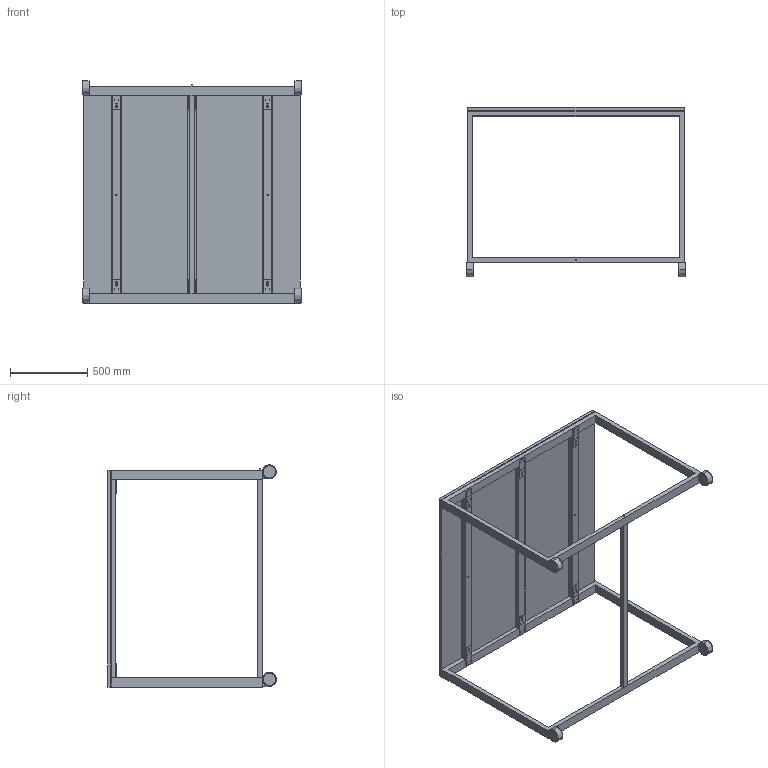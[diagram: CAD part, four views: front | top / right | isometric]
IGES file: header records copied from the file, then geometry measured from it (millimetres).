
Start section: SolidWorks IGES file using analytic representation for surfaces
Global section: file name: C:\Users\hcaixa\Documents\Gabinete Tecnico\72_produtos cliente\Timsteel\Mesas\Mesas Escritorio Operativas\Sistema Level Timsteel\AREIA-STUDIO FURNITURE CONCEPT\IGS\MESA ALTA 1400X1400 H1100.IGS; native system: SolidWorks 2014; preprocessor: SolidWorks 2014; author: hcaixa; date: 190702.175222; units: millimetre
Bounding box: 1420 x 1090 x 1434.78 mm (x, y, z)
Surface area: 7508241 mm2 (no closed solid volume)
Topology: 0 solids, 0 shells, 520 faces, 10848 edges, 10848 vertices
Faces by surface type: revolution 286, bspline 234
